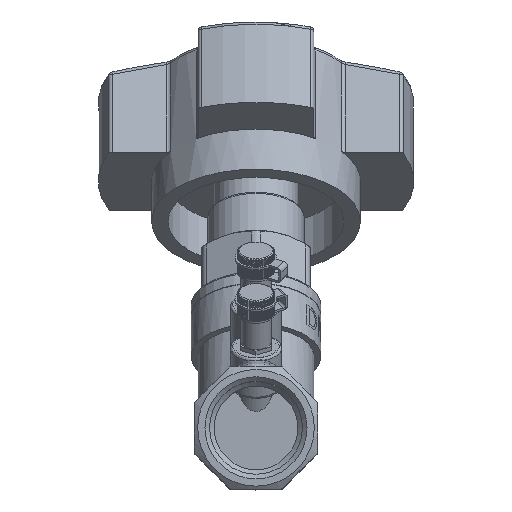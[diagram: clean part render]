
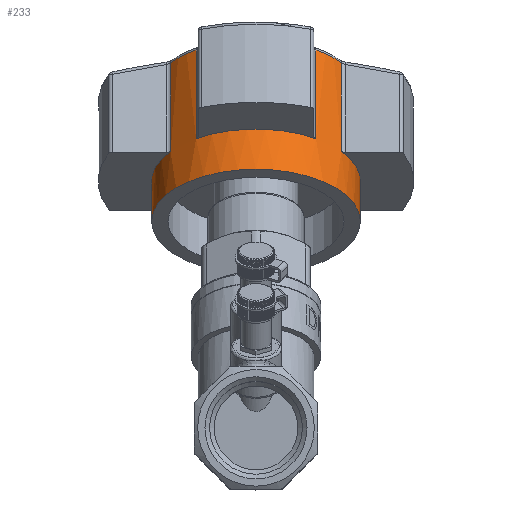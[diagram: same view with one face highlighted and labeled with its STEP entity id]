
A CAD part, top view. The second image highlights one B-rep face of the part: STEP entity #233.
In plain terms, the highlighted cylindrical face has radius 22.5 mm (diameter 45 mm), a full revolution.
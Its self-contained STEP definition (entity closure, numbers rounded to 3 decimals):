
#233=ADVANCED_FACE('',(#11323,#11325),#11327,.T.);
#11323=FACE_BOUND('',#11324,.T.);
#11324=EDGE_LOOP('',(#21850,#21851,#21852,#21853,#21854,#21855,#21856,#21857,#21858,
#21859,#21860,#21861,#21862,#21863,#21864,#21865,#21866));
#11325=FACE_OUTER_BOUND('',#11326,.T.);
#11326=EDGE_LOOP('',(#21867));
#11327=CYLINDRICAL_SURFACE('',#11328,22.5);
#11328=AXIS2_PLACEMENT_3D('',#11329,#11330,#11331);
#11329=CARTESIAN_POINT('',(0.,53.245,-27.053));
#11330=DIRECTION('',(0.,0.866,-0.5));
#11331=DIRECTION('',(-1.,0.,0.));
#21850=ORIENTED_EDGE('',*,*,#28688,.F.);
#21851=ORIENTED_EDGE('',*,*,#28689,.F.);
#21852=ORIENTED_EDGE('',*,*,#28690,.F.);
#21853=ORIENTED_EDGE('',*,*,#28691,.F.);
#21854=ORIENTED_EDGE('',*,*,#28692,.F.);
#21855=ORIENTED_EDGE('',*,*,#28693,.F.);
#21856=ORIENTED_EDGE('',*,*,#28694,.F.);
#21857=ORIENTED_EDGE('',*,*,#28695,.F.);
#21858=ORIENTED_EDGE('',*,*,#28696,.F.);
#21859=ORIENTED_EDGE('',*,*,#28697,.F.);
#21860=ORIENTED_EDGE('',*,*,#28698,.F.);
#21861=ORIENTED_EDGE('',*,*,#28699,.F.);
#21862=ORIENTED_EDGE('',*,*,#28700,.F.);
#21863=ORIENTED_EDGE('',*,*,#28701,.F.);
#21864=ORIENTED_EDGE('',*,*,#28702,.F.);
#21865=ORIENTED_EDGE('',*,*,#28703,.F.);
#21866=ORIENTED_EDGE('',*,*,#28704,.F.);
#21867=ORIENTED_EDGE('',*,*,#28674,.F.);
#28674=EDGE_CURVE('',#31910,#31910,#31911,.T.);
#28688=EDGE_CURVE('',#31938,#31939,#31940,.T.);
#28689=EDGE_CURVE('',#31941,#31938,#31942,.T.);
#28690=EDGE_CURVE('',#31943,#31941,#31944,.T.);
#28691=EDGE_CURVE('',#31945,#31943,#31946,.T.);
#28692=EDGE_CURVE('',#31947,#31945,#31948,.T.);
#28693=EDGE_CURVE('',#31949,#31947,#31950,.T.);
#28694=EDGE_CURVE('',#31951,#31949,#31952,.T.);
#28695=EDGE_CURVE('',#31953,#31951,#31954,.T.);
#28696=EDGE_CURVE('',#31955,#31953,#31956,.T.);
#28697=EDGE_CURVE('',#31957,#31955,#31958,.T.);
#28698=EDGE_CURVE('',#31959,#31957,#31960,.T.);
#28699=EDGE_CURVE('',#31961,#31959,#31962,.T.);
#28700=EDGE_CURVE('',#31963,#31961,#31964,.T.);
#28701=EDGE_CURVE('',#31965,#31963,#31966,.T.);
#28702=EDGE_CURVE('',#31967,#31965,#31968,.T.);
#28703=EDGE_CURVE('',#31969,#31967,#31970,.T.);
#28704=EDGE_CURVE('',#31939,#31969,#31971,.T.);
#31910=VERTEX_POINT('',#37219);
#31911=CIRCLE('',#37220,22.5);
#31938=VERTEX_POINT('',#37841);
#31939=VERTEX_POINT('',#37842);
#31940=CIRCLE('',#37843,22.5);
#31941=VERTEX_POINT('',#37847);
#31942=LINE('',#37848,#37849);
#31943=VERTEX_POINT('',#37851);
#31944=CIRCLE('',#37852,22.5);
#31945=VERTEX_POINT('',#37856);
#31946=LINE('',#37857,#37858);
#31947=VERTEX_POINT('',#37860);
#31948=CIRCLE('',#37861,22.5);
#31949=VERTEX_POINT('',#37865);
#31950=LINE('',#37866,#37867);
#31951=VERTEX_POINT('',#37869);
#31952=CIRCLE('',#37870,22.5);
#31953=VERTEX_POINT('',#37874);
#31954=LINE('',#37875,#37876);
#31955=VERTEX_POINT('',#37878);
#31956=CIRCLE('',#37879,22.5);
#31957=VERTEX_POINT('',#37883);
#31958=LINE('',#37884,#37885);
#31959=VERTEX_POINT('',#37887);
#31960=CIRCLE('',#37888,22.5);
#31961=VERTEX_POINT('',#37892);
#31962=LINE('',#37893,#37894);
#31963=VERTEX_POINT('',#37896);
#31964=CIRCLE('',#37897,22.5);
#31965=VERTEX_POINT('',#37901);
#31966=LINE('',#37902,#37903);
#31967=VERTEX_POINT('',#37905);
#31968=CIRCLE('',#37906,22.5);
#31969=VERTEX_POINT('',#37910);
#31970=LINE('',#37911,#37912);
#31971=CIRCLE('',#37914,22.5);
#37219=CARTESIAN_POINT('',(22.5,44.585,-22.053));
#37220=AXIS2_PLACEMENT_3D('',#37221,#37222,#37223);
#37221=CARTESIAN_POINT('',(0.,44.585,-22.053));
#37222=DIRECTION('',(0.,-0.866,0.5));
#37223=DIRECTION('',(1.,0.,0.));
#37841=CARTESIAN_POINT('',(18.417,59.708,-15.86));
#37842=CARTESIAN_POINT('',(22.5,53.245,-27.053));
#37843=AXIS2_PLACEMENT_3D('',#37844,#37845,#37846);
#37844=CARTESIAN_POINT('',(0.,53.245,-27.053));
#37845=DIRECTION('',(0.,0.866,-0.5));
#37846=DIRECTION('',(0.819,0.287,0.498));
#37847=CARTESIAN_POINT('',(18.417,78.831,-26.9));
#37848=CARTESIAN_POINT('',(18.417,78.831,-26.9));
#37849=VECTOR('',#37850,1.);
#37850=DIRECTION('',(0.,-0.866,0.5));
#37851=CARTESIAN_POINT('',(12.926,81.576,-22.144));
#37852=AXIS2_PLACEMENT_3D('',#37853,#37854,#37855);
#37853=CARTESIAN_POINT('',(0.,72.368,-38.094));
#37854=DIRECTION('',(0.,0.866,-0.5));
#37855=DIRECTION('',(0.574,0.409,0.709));
#37856=CARTESIAN_POINT('',(12.926,62.454,-11.104));
#37857=CARTESIAN_POINT('',(12.926,62.454,-11.104));
#37858=VECTOR('',#37859,1.);
#37859=DIRECTION('',(0.,0.866,-0.5));
#37860=CARTESIAN_POINT('',(-12.926,62.454,-11.104));
#37861=AXIS2_PLACEMENT_3D('',#37862,#37863,#37864);
#37862=CARTESIAN_POINT('',(0.,53.245,-27.053));
#37863=DIRECTION('',(0.,0.866,-0.5));
#37864=DIRECTION('',(-0.574,0.409,0.709));
#37865=CARTESIAN_POINT('',(-12.926,81.576,-22.144));
#37866=CARTESIAN_POINT('',(-12.926,81.576,-22.144));
#37867=VECTOR('',#37868,1.);
#37868=DIRECTION('',(0.,-0.866,0.5));
#37869=CARTESIAN_POINT('',(-18.417,78.831,-26.9));
#37870=AXIS2_PLACEMENT_3D('',#37871,#37872,#37873);
#37871=CARTESIAN_POINT('',(0.,72.368,-38.094));
#37872=DIRECTION('',(0.,0.866,-0.5));
#37873=DIRECTION('',(-0.819,0.287,0.498));
#37874=CARTESIAN_POINT('',(-18.417,59.708,-15.86));
#37875=CARTESIAN_POINT('',(-18.417,59.708,-15.86));
#37876=VECTOR('',#37877,1.);
#37877=DIRECTION('',(0.,0.866,-0.5));
#37878=CARTESIAN_POINT('',(-18.417,46.783,-38.247));
#37879=AXIS2_PLACEMENT_3D('',#37880,#37881,#37882);
#37880=CARTESIAN_POINT('',(0.,53.245,-27.053));
#37881=DIRECTION('',(0.,0.866,-0.5));
#37882=DIRECTION('',(-0.819,-0.287,-0.498));
#37883=CARTESIAN_POINT('',(-18.417,65.905,-49.288));
#37884=CARTESIAN_POINT('',(-18.417,65.905,-49.288));
#37885=VECTOR('',#37886,1.);
#37886=DIRECTION('',(0.,-0.866,0.5));
#37887=CARTESIAN_POINT('',(-12.926,63.159,-54.043));
#37888=AXIS2_PLACEMENT_3D('',#37889,#37890,#37891);
#37889=CARTESIAN_POINT('',(0.,72.368,-38.094));
#37890=DIRECTION('',(0.,0.866,-0.5));
#37891=DIRECTION('',(-0.574,-0.409,-0.709));
#37892=CARTESIAN_POINT('',(-12.926,44.037,-43.003));
#37893=CARTESIAN_POINT('',(-12.926,44.037,-43.003));
#37894=VECTOR('',#37895,1.);
#37895=DIRECTION('',(0.,0.866,-0.5));
#37896=CARTESIAN_POINT('',(12.926,44.037,-43.003));
#37897=AXIS2_PLACEMENT_3D('',#37898,#37899,#37900);
#37898=CARTESIAN_POINT('',(0.,53.245,-27.053));
#37899=DIRECTION('',(0.,0.866,-0.5));
#37900=DIRECTION('',(0.574,-0.409,-0.709));
#37901=CARTESIAN_POINT('',(12.926,63.159,-54.043));
#37902=CARTESIAN_POINT('',(12.926,63.159,-54.043));
#37903=VECTOR('',#37904,1.);
#37904=DIRECTION('',(0.,-0.866,0.5));
#37905=CARTESIAN_POINT('',(18.417,65.905,-49.288));
#37906=AXIS2_PLACEMENT_3D('',#37907,#37908,#37909);
#37907=CARTESIAN_POINT('',(0.,72.368,-38.094));
#37908=DIRECTION('',(0.,0.866,-0.5));
#37909=DIRECTION('',(0.819,-0.287,-0.498));
#37910=CARTESIAN_POINT('',(18.417,46.783,-38.247));
#37911=CARTESIAN_POINT('',(18.417,46.783,-38.247));
#37912=VECTOR('',#37913,1.);
#37913=DIRECTION('',(0.,0.866,-0.5));
#37914=AXIS2_PLACEMENT_3D('',#37915,#37916,#37917);
#37915=CARTESIAN_POINT('',(0.,53.245,-27.053));
#37916=DIRECTION('',(0.,0.866,-0.5));
#37917=DIRECTION('',(1.,0.,0.));
